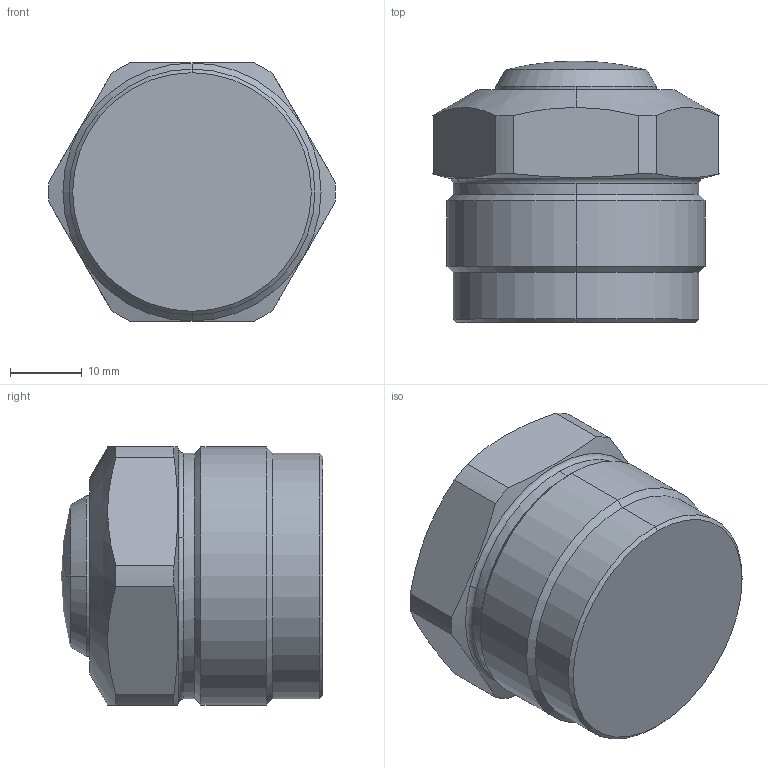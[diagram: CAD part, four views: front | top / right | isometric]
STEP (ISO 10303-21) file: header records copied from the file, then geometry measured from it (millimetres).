
FILE_DESCRIPTION((' '),'2;1');
FILE_NAME( 'CMC10-05R.X_T.stp', '2024-08-27T13:58:39', (' '), ('--- Datakit www.datakit.com---'), ' Datakit CrossCadWare V2024.1 Dec 21 2023', 'Mastercam 2025', ' ');
FILE_SCHEMA(('AUTOMOTIVE_DESIGN { 1 0 10303 214 1 1 1 1 }'));
Length unit declared in the file: millimetre
Products named in the file (1): CMC10-05R
Bounding box: 39.99 x 36.5 x 36 mm (x, y, z)
Volume: 33645 mm3; surface area: 7278 mm2
Topology: 2 solids, 2 shells, 42 faces, 102 edges, 63 vertices
Faces by surface type: cylinder 16, cone 12, plane 10, torus 2, sphere 2
Entity records: 1348 total; most frequent: CARTESIAN_POINT 338, DIRECTION 220, ORIENTED_EDGE 200, EDGE_CURVE 100, AXIS2_PLACEMENT_3D 93, VERTEX_POINT 63, CIRCLE 50, EDGE_LOOP 43
